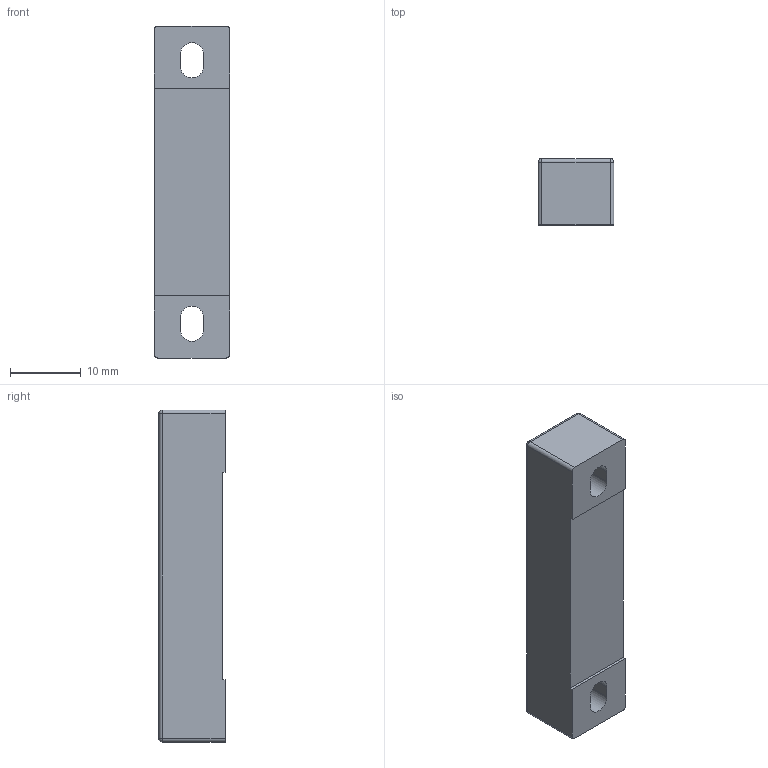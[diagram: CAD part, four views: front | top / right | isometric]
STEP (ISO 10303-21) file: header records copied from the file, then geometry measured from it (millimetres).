
FILE_DESCRIPTION (( 'STEP AP203' ), '1' );
FILE_NAME ('SM2000.STEP', '2019-09-12T17:04:42', ( '' ), ( '' ), 'SwSTEP 2.0', 'SolidWorks 2012', '' );
FILE_SCHEMA (( 'CONFIG_CONTROL_DESIGN' ));
Length unit declared in the file: millimetre
Products named in the file (1): SM2000
Bounding box: 10.7 x 9.4 x 47 mm (x, y, z)
Volume: 4049 mm3; surface area: 2341.9 mm2
Topology: 1 solids, 1 shells, 48 faces, 124 edges, 76 vertices
Faces by surface type: plane 24, cylinder 20, sphere 4
Entity records: 1513 total; most frequent: DIRECTION 258, CARTESIAN_POINT 245, ORIENTED_EDGE 240, EDGE_CURVE 120, AXIS2_PLACEMENT_3D 89, VECTOR 80, LINE 80, VERTEX_POINT 76
